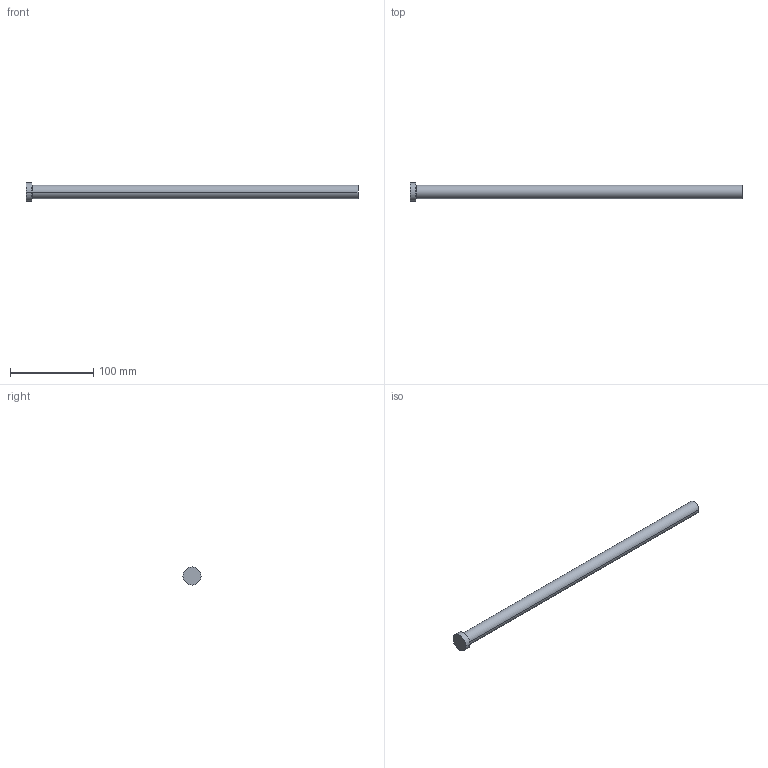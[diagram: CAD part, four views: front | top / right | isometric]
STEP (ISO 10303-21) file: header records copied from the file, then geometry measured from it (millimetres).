
FILE_DESCRIPTION (( 'STEP AP214' ), '1' );
FILE_NAME ('A-16x400.STEP', '2020-05-29T16:19:43', ( 'August' ), ( '' ), 'SwSTEP 2.0', 'SolidWorks 2018', '' );
FILE_SCHEMA (( 'AUTOMOTIVE_DESIGN' ));
Length unit declared in the file: millimetre
Products named in the file (1): A-16x400
Bounding box: 400 x 22 x 22 mm (x, y, z)
Volume: 81685.3 mm3; surface area: 20981.4 mm2
Topology: 1 solids, 1 shells, 9 faces, 16 edges, 10 vertices
Faces by surface type: cylinder 4, plane 3, torus 2
Entity records: 260 total; most frequent: DIRECTION 48, CARTESIAN_POINT 36, ORIENTED_EDGE 32, AXIS2_PLACEMENT_3D 22, EDGE_CURVE 16, CIRCLE 12, EDGE_LOOP 10, VERTEX_POINT 10
